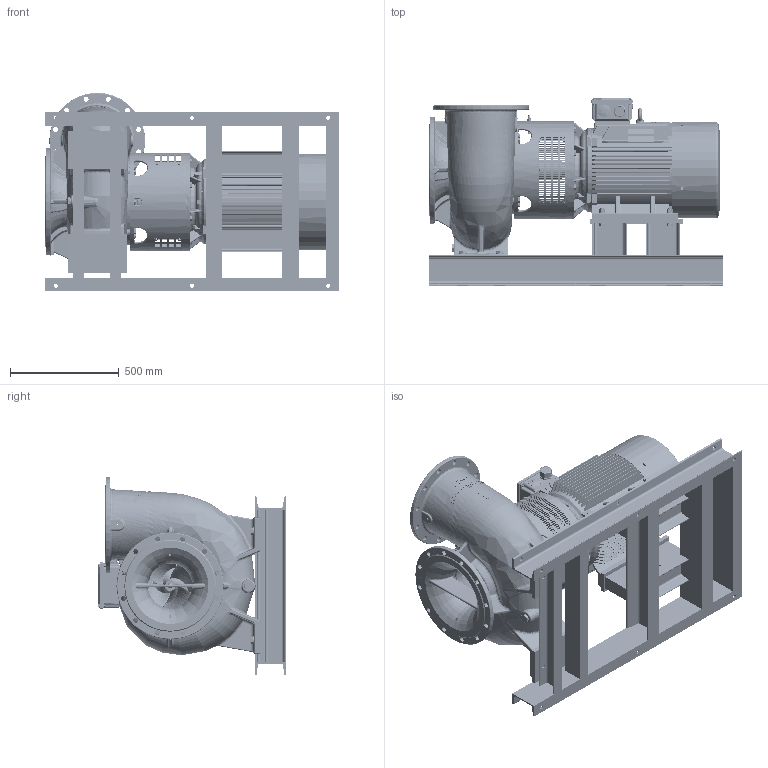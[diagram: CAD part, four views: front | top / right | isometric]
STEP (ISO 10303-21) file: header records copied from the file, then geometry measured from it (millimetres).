
FILE_DESCRIPTION((''),'2;1');
FILE_NAME('NSLH300-250_A02_FO_ASM','2024-05-28T',('maxz'),(''),'PRO/ENGINEER BY PARAMETRIC TECHNOLOGY CORPORATION, 2017170','PRO/ENGINEER BY PARAMETRIC TECHNOLOGY CORPORATION, 2017170','');
FILE_SCHEMA(('CONFIG_CONTROL_DESIGN'));
Products named in the file (58): 597040; 597020; 597060; 117620; 704247; 700951; 506840; 117618; 117306; 707211; 725991_1; 725991_2; 725991_ASM; 709675; 705274; 117619; 696148_ASM; 597070; 717911; 506702; 704032; 717910; 2041146; 712334; 710728_1; 710728_2; 710728_ASM; 710729; 704067; 705750; 704309; 712131; 704390; 704391; 704189; 506954; 702273; 704022; 696147_ASM; 117637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
Assembly tree (120 placements, depth 5):
  NSLH300-250_A02_FO_ASM
    696147_ASM
      597040
      597020
      597060
      696148_ASM
        117620
        704247
        700951  x2
        506840
        117618
        117306
        707211
        725991_ASM
          725991_1
          725991_2
        709675
        705274
        117619
      597070
      717911
      506702
      704032
      717910
      2041146
      712334
      710728_ASM
        710728_1
        710728_2
      710729
      704067  x8
      705750  x8
      704309  x4
      712131  x2
      704390  x4
      704391
      704189
      506954
      702273  x4
      704022
    696156_ASM
      117637
      597130
      117624
      712333
      704268
      711318
      710729
      110704_AF0
      720488  x8
      110704_AF2
      704021  x4
      702247  x4
      701239  x8
      701218  x4
      703840  x4
      760629  x4
      704309  x8
      703207
    854502
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Bounding box: 1350 x 859.73 x 910 mm (x, y, z)
Volume: 120457323.8 mm3; surface area: 13615039.9 mm2
Topology: 145 solids, 203 shells, 8189 faces, 21246 edges, 13592 vertices
Faces by surface type: plane 3097, cylinder 1712, bspline 1223, cone 853, extrusion 693, torus 460, sphere 139, revolution 12
Entity records: 431241 total; most frequent: CARTESIAN_POINT 261086, ORIENTED_EDGE 37822, DIRECTION 29796, EDGE_CURVE 19025, VERTEX_POINT 12301, AXIS2_PLACEMENT_3D 10360, VECTOR 9064, EDGE_LOOP 8420
